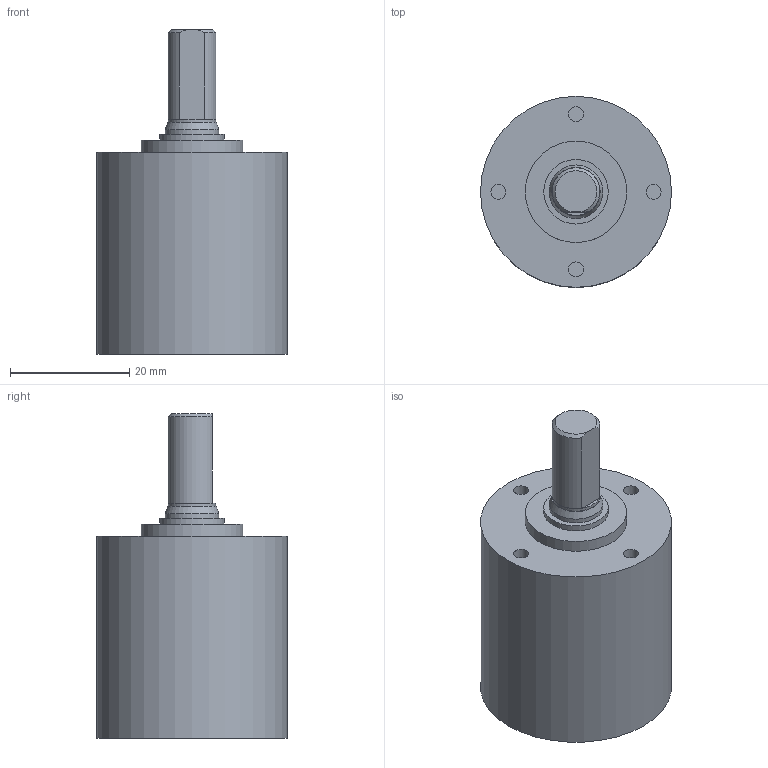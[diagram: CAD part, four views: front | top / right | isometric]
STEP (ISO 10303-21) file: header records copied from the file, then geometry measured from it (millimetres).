
FILE_DESCRIPTION(/* description */ (''),/* implementation_level */ '2;1');
FILE_NAME(/* name */ '32-3_1.stp',/* time_stamp */ '2016-09-07T14:16:47+02:00',/* author */ ('DR. FRITZ FAULHABER GmbH & Co. KG'),/* organization */ ('DR. FRITZ FAULHABER GmbH & Co. KG'),/* preprocessor_version */ 'ST-DEVELOPER v16',/* originating_system */ 'SIEMENS PLM Software NX 10.0',/* authorisation */ '');
FILE_SCHEMA (('AUTOMOTIVE_DESIGN { 1 0 10303 214 3 1 1 1 }'));
Length unit declared in the file: millimetre
Products named in the file (1): H00000241_A
Bounding box: 32 x 32 x 54.4 mm (x, y, z)
Volume: 20549.6 mm3; surface area: 6991 mm2
Topology: 1 solids, 1 shells, 39 faces, 87 edges, 70 vertices
Faces by surface type: plane 19, cylinder 17, cone 3
Full cylindrical faces by diameter (mm): 2.5 x4, 4 x1, 7.9 x1, 9 x1, 10.8 x1, 11.8 x1, 12.2 x1, 17 x1, 26.9 x1, 27.57 x1, 30 x1, 30.459 x1, 32 x1
Entity records: 1021 total; most frequent: DIRECTION 191, CARTESIAN_POINT 151, ORIENTED_EDGE 90, AXIS2_PLACEMENT_3D 90, EDGE_LOOP 71, FACE_BOUND 62, CIRCLE 50, EDGE_CURVE 45
